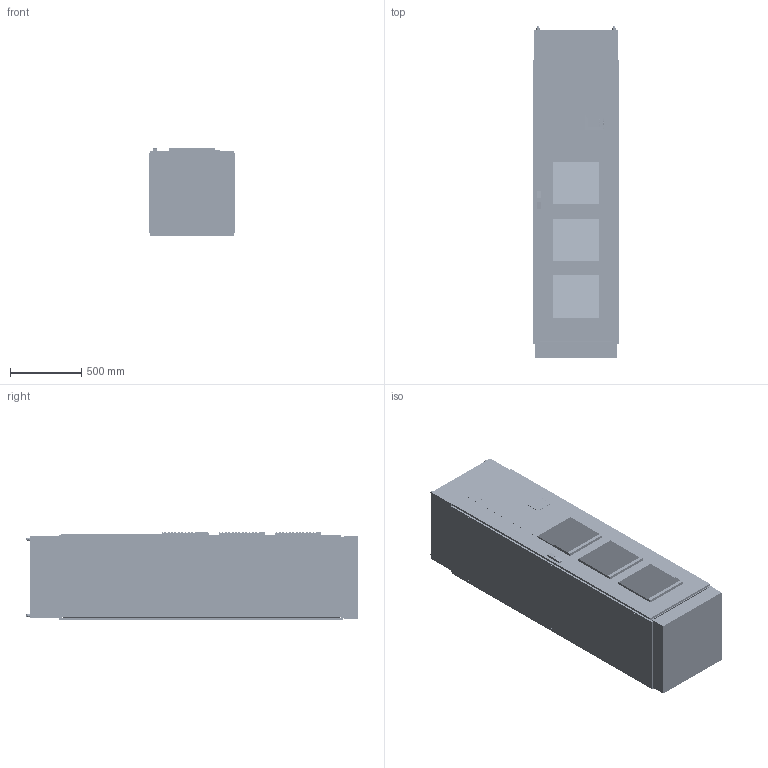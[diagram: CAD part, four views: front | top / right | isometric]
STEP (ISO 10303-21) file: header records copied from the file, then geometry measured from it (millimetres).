
FILE_DESCRIPTION((''),'2;1');
FILE_NAME('MARKETING_ASM','2010-03-03T',('breuilhp'),(''),'PRO/ENGINEER BY PARAMETRIC TECHNOLOGY CORPORATION, 2009460','PRO/ENGINEER BY PARAMETRIC TECHNOLOGY CORPORATION, 2009460','');
FILE_SCHEMA(('CONFIG_CONTROL_DESIGN'));
Products named in the file (39): SOCLE_600X600; CADRE_600X600; POTEAU_2000; TS8_CHASSIS_2000X600X600_ASM; 28-0-00001-44; PORTE_TS8_2000X600_AF0; 8XXX_00_21; 8XXX_00_25; 28-0-00006-44_ASM; PANNEAU_AR_2000X600; PANNEAU_LATTERAL_2000X600; SK3326207; IHM; 28-5-21031-40; M6X15; M4X10; 28-5-21031-40_ASM; 28-0-00015-40; RIVET_POP_D4; 28-0-00016-26_ASM; 16043-A; 28-0-00016-40; 19008; WAGO_261-104; ECOFIT_D27-A2; M8; M4; 28-0-10001-60; 91902; M6; VIS004VS033; 28-5-21013-26_ASM; ARMOIRE_PRINCIPALE_MARKETING_ASM; SOCLE_MARKETING_600X600; IP54_MARKETING; RONDELLE_MARKETING; ECROU_BORGNE_M12; ETIQUETTE_LEROY; MARKETING_ASM
Assembly tree (81 placements, depth 6):
  MARKETING_ASM
    ARMOIRE_PRINCIPALE_MARKETING_ASM
      TS8_CHASSIS_2000X600X600_ASM
        SOCLE_600X600
        CADRE_600X600  x2
        POTEAU_2000  x4
      28-0-00001-44
      28-0-00006-44_ASM
        PORTE_TS8_2000X600_AF0
        8XXX_00_21  x4
        8XXX_00_25
      PANNEAU_AR_2000X600
      PANNEAU_LATTERAL_2000X600  x2
      SK3326207  x3
      IHM
      28-5-21013-26_ASM
        28-0-00016-26_ASM
          28-5-21031-40_ASM
            28-5-21031-40
            M6X15  x11
            M4X10  x4
          28-0-00015-40
          RIVET_POP_D4  x2
        16043-A
        28-0-00016-40
        19008
        WAGO_261-104
        ECOFIT_D27-A2
        M8
        M4  x4
        28-0-10001-60
        91902
        M6  x4
        VIS004VS033  x4
    SOCLE_MARKETING_600X600
    IP54_MARKETING
    RONDELLE_MARKETING  x8
    ECROU_BORGNE_M12  x4
    ETIQUETTE_LEROY
Bounding box: 606 x 2333 x 622.5 mm (x, y, z)
Volume: 126355985.8 mm3; surface area: 17413527 mm2
Topology: 80 solids, 103 shells, 13007 faces, 29081 edges, 16398 vertices
Faces by surface type: cylinder 6615, plane 5713, cone 279, extrusion 189, torus 167, bspline 30, revolution 10, sphere 4
Entity records: 171600 total; most frequent: CARTESIAN_POINT 48515, DIRECTION 25414, ORIENTED_EDGE 24938, EDGE_CURVE 12528, AXIS2_PLACEMENT_3D 9569, VERTEX_POINT 7546, EDGE_LOOP 6405, VECTOR 6272
